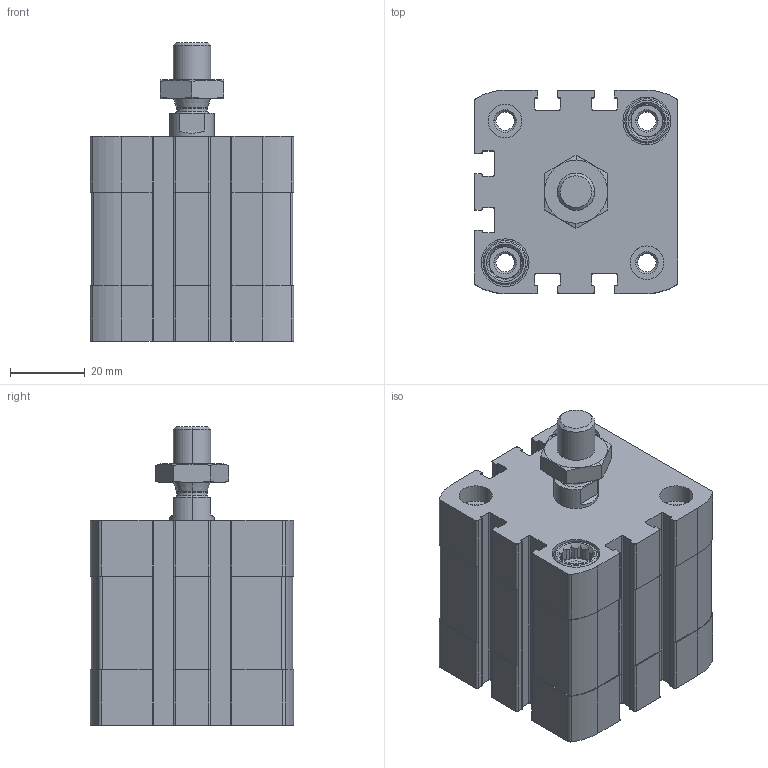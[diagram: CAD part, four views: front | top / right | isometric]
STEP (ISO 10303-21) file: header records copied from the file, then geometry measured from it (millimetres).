
FILE_DESCRIPTION (( 'STEP AP203' ), '1' );
FILE_NAME ('CCN40-10M.STEP', '2017-03-30T12:23:05', ( '' ), ( '' ), 'SwSTEP 2.0', 'SolidWorks 2016', '' );
FILE_SCHEMA (( 'CONFIG_CONTROL_DESIGN' ));
Length unit declared in the file: millimetre
Products named in the file (4): ccn-10---(Z); CCN-10_(KS); _DIN-439-B - M10x1.25(F); CCN40-10M
Assembly tree (3 placements, depth 2):
  CCN40-10M
    ccn-10---(Z)
    CCN-10_(KS)
    _DIN-439-B - M10x1.25(F)
Bounding box: 54.5 x 54.5 x 80.1 mm (x, y, z)
Volume: 132590.8 mm3; surface area: 39884.3 mm2
Topology: 3 solids, 3 shells, 499 faces, 1334 edges, 872 vertices
Faces by surface type: plane 275, cylinder 172, cone 48, bspline 4
Entity records: 16246 total; most frequent: CARTESIAN_POINT 3119, DIRECTION 2720, ORIENTED_EDGE 2668, EDGE_CURVE 1334, AXIS2_PLACEMENT_3D 997, VERTEX_POINT 872, LINE 726, VECTOR 726
